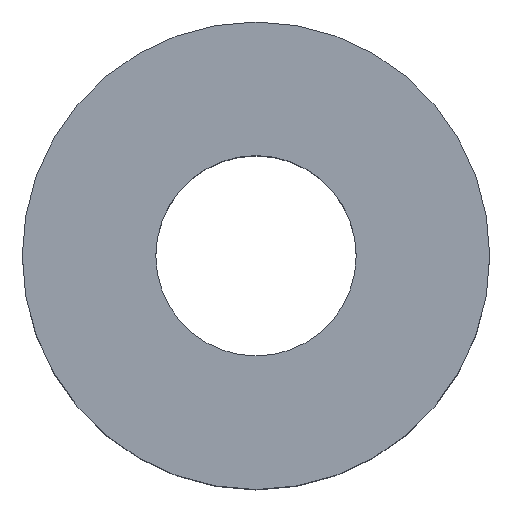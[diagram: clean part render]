
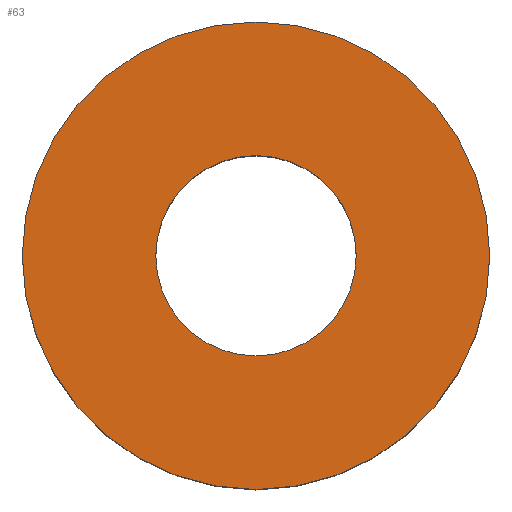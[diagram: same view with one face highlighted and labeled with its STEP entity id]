
A CAD part, top view. The second image highlights one B-rep face of the part: STEP entity #63.
In plain terms, the highlighted planar face has unit normal (0, 0, 1).
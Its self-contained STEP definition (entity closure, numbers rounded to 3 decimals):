
#15=FACE_BOUND('',#26,.T.);
#17=PLANE('',#85);
#21=FACE_OUTER_BOUND('',#25,.T.);
#25=EDGE_LOOP('',(#55));
#26=EDGE_LOOP('',(#56));
#33=CIRCLE('',#80,1.5);
#35=CIRCLE('',#83,3.5);
#37=VERTEX_POINT('',#109);
#39=VERTEX_POINT('',#115);
#41=EDGE_CURVE('',#37,#37,#33,.T.);
#44=EDGE_CURVE('',#39,#39,#35,.T.);
#55=ORIENTED_EDGE('',*,*,#44,.T.);
#56=ORIENTED_EDGE('',*,*,#41,.T.);
#63=ADVANCED_FACE('',(#21,#15),#17,.T.);
#80=AXIS2_PLACEMENT_3D('',#110,#91,#92);
#83=AXIS2_PLACEMENT_3D('',#116,#98,#99);
#85=AXIS2_PLACEMENT_3D('',#120,#103,#104);
#91=DIRECTION('center_axis',(0.,0.,-1.));
#92=DIRECTION('ref_axis',(1.,0.,0.));
#98=DIRECTION('center_axis',(0.,0.,1.));
#99=DIRECTION('ref_axis',(1.,0.,0.));
#103=DIRECTION('center_axis',(0.,0.,1.));
#104=DIRECTION('ref_axis',(1.,0.,0.));
#109=CARTESIAN_POINT('',(-1.5,0.,4.));
#110=CARTESIAN_POINT('Origin',(0.,0.,4.));
#115=CARTESIAN_POINT('',(-3.5,0.,4.));
#116=CARTESIAN_POINT('Origin',(0.,0.,4.));
#120=CARTESIAN_POINT('Origin',(0.,0.,4.));
